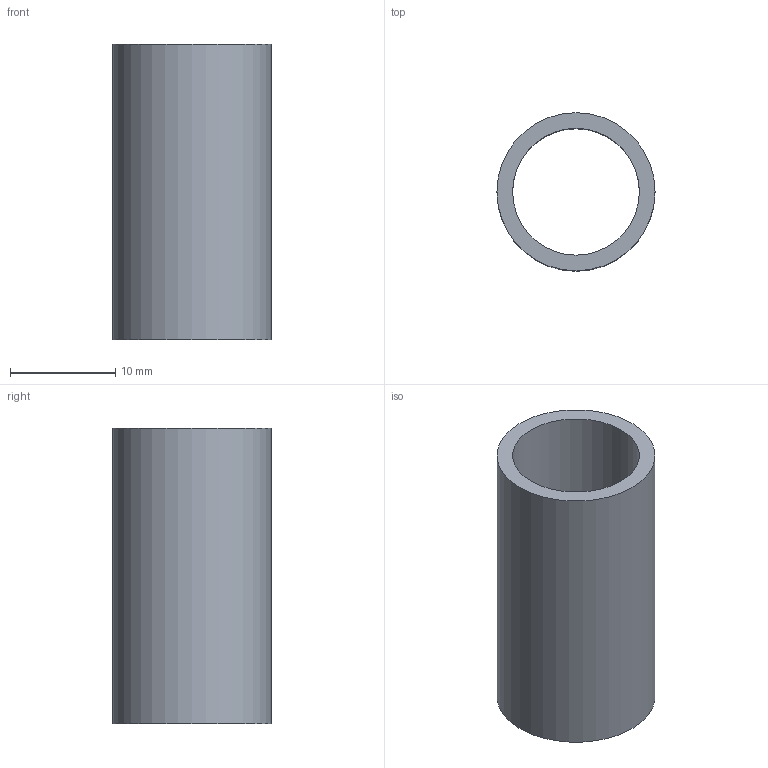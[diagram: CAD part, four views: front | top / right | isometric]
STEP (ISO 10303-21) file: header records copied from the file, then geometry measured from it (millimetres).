
FILE_DESCRIPTION(/* description */ ('BEARING A'),/* implementation_level */ '2;1');
FILE_NAME(/* name */ 'C:\Users\Apardo\Documents\Proyectos\Dietrich\Proyecto 1\PLATE ROLLING MACHINE\STEP\1.12 bearingA.stp',/* time_stamp */ '2020-11-03T20:44:13-04:00',/* author */ ('Apardo'),/* organization */ ('16'),/* preprocessor_version */ 'ST-DEVELOPER v18',/* originating_system */ 'Autodesk Inventor 2020',/* authorisation */ '');
FILE_SCHEMA (('AUTOMOTIVE_DESIGN { 1 0 10303 214 3 1 1 }'));
Length unit declared in the file: millimetre
Products named in the file (1): bearingA
Bounding box: 15 x 15 x 28 mm (x, y, z)
Volume: 1770.7 mm3; surface area: 2503.3 mm2
Topology: 1 solids, 1 shells, 4 faces, 8 edges, 6 vertices
Faces by surface type: plane 2, cylinder 2
Full cylindrical faces by diameter (mm): 12.02 x1, 15 x1
Entity records: 159 total; most frequent: DIRECTION 24, CARTESIAN_POINT 19, ORIENTED_EDGE 16, AXIS2_PLACEMENT_3D 11, EDGE_CURVE 8, EDGE_LOOP 6, CIRCLE 6, VERTEX_POINT 6
